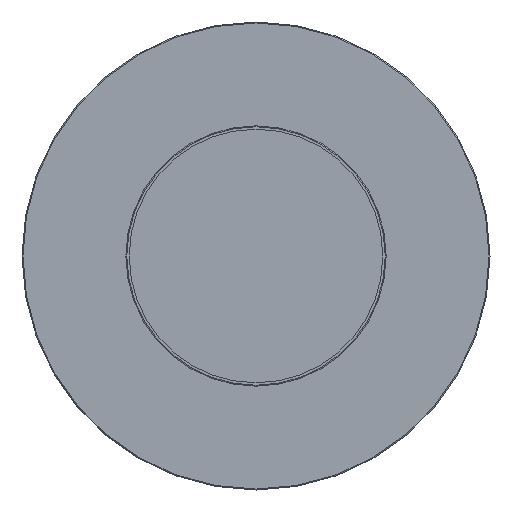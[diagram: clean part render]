
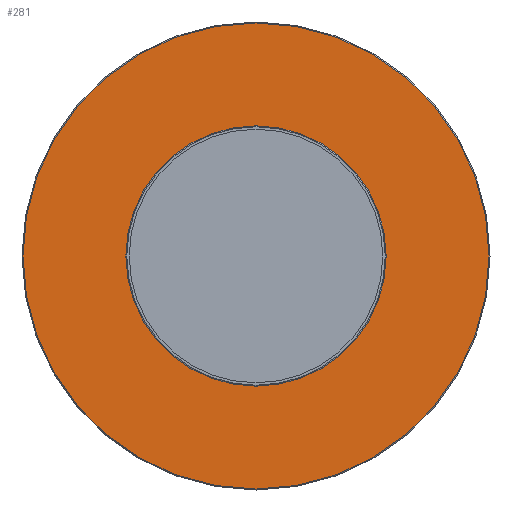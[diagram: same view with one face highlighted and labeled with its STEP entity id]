
A CAD part, front view. The second image highlights one B-rep face of the part: STEP entity #281.
In plain terms, the highlighted planar face has unit normal (0, -1, 0).
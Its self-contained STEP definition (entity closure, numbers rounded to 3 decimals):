
#110=CARTESIAN_POINT('',(0.,757.451,-19.75));
#111=VERTEX_POINT('',#110);
#112=CARTESIAN_POINT('',(0.,757.451,0.));
#113=DIRECTION('',(0.0,1.0,0.0));
#114=DIRECTION('',(0.0,0.0,1.0));
#115=AXIS2_PLACEMENT_3D('',#112,#113,#114);
#116=CIRCLE('',#115,19.75);
#117=EDGE_CURVE('',#111,#111,#116,.T.);
#258=CARTESIAN_POINT('',(0.,757.451,-239.0));
#259=VERTEX_POINT('',#258);
#260=CARTESIAN_POINT('',(0.,757.451,0.));
#261=DIRECTION('',(0.0,1.0,0.0));
#262=DIRECTION('',(0.0,0.0,1.0));
#263=AXIS2_PLACEMENT_3D('',#260,#261,#262);
#264=CIRCLE('',#263,239.0);
#265=EDGE_CURVE('',#259,#259,#264,.T.);
#270=CARTESIAN_POINT('',(0.,757.451,0.));
#271=DIRECTION('',(0.0,-1.0,0.0));
#272=DIRECTION('',(0.0,0.0,1.0));
#273=AXIS2_PLACEMENT_3D('',#270,#271,#272);
#274=PLANE('',#273);
#275=ORIENTED_EDGE('',*,*,#265,.F.);
#276=EDGE_LOOP('',(#275));
#277=FACE_OUTER_BOUND('',#276,.T.);
#278=ORIENTED_EDGE('',*,*,#117,.T.);
#279=EDGE_LOOP('',(#278));
#280=FACE_BOUND('',#279,.T.);
#281=ADVANCED_FACE('',(#277,#280),#274,.T.);
